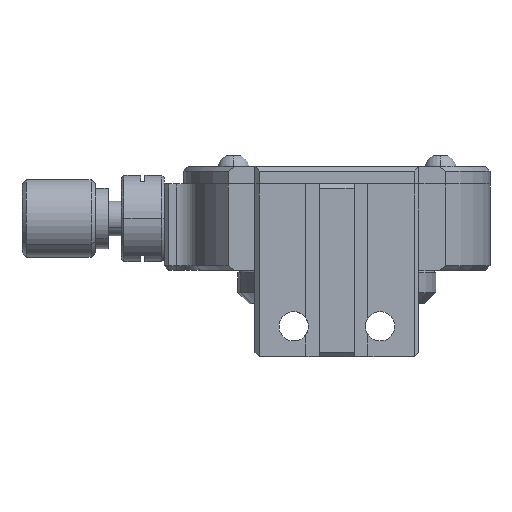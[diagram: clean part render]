
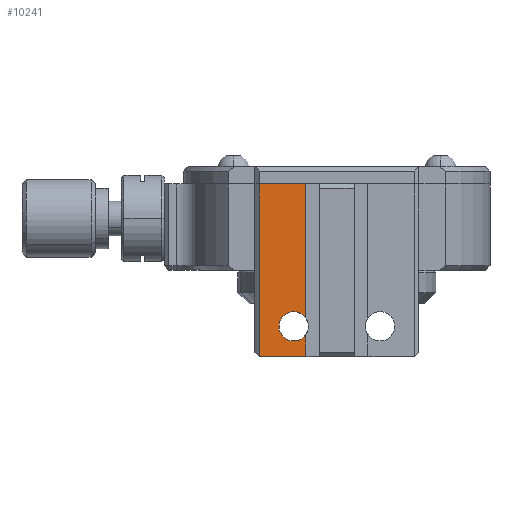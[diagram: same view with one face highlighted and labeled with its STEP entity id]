
A CAD part, front view. The second image highlights one B-rep face of the part: STEP entity #10241.
In plain terms, the highlighted planar face has unit normal (0, -1, 0).
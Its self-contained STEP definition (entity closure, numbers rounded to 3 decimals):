
#293 = LINE ( 'NONE', #14736, #6287 ) ;
#619 = VERTEX_POINT ( 'NONE', #1282 ) ;
#730 = EDGE_CURVE ( 'NONE', #619, #4335, #2613, .T. ) ;
#1066 = EDGE_LOOP ( 'NONE', ( #11743, #7103, #15033, #1620, #3644, #4826, #8092, #11633 ) ) ;
#1235 = VERTEX_POINT ( 'NONE', #9918 ) ;
#1282 = CARTESIAN_POINT ( 'NONE',  ( -3.6, -17.5, 0. ) ) ;
#1375 = EDGE_CURVE ( 'NONE', #4393, #7264, #5883, .T. ) ;
#1564 = EDGE_CURVE ( 'NONE', #14209, #619, #13424, .T. ) ;
#1620 = ORIENTED_EDGE ( 'NONE', *, *, #10924, .T. ) ;
#1626 = VECTOR ( 'NONE', #8209, 1000. ) ;
#2376 = EDGE_CURVE ( 'NONE', #4335, #1235, #293, .T. ) ;
#2578 = DIRECTION ( 'NONE',  ( 0., 0., -1. ) ) ;
#2613 = LINE ( 'NONE', #5171, #8181 ) ;
#2964 = DIRECTION ( 'NONE',  ( 0., 0., 1. ) ) ;
#3104 = EDGE_CURVE ( 'NONE', #4600, #1235, #9328, .T. ) ;
#3644 = ORIENTED_EDGE ( 'NONE', *, *, #11473, .T. ) ;
#4097 = DIRECTION ( 'NONE',  ( 0., 1., 0. ) ) ;
#4229 = CARTESIAN_POINT ( 'NONE',  ( -3.6, -17.5, -15.536 ) ) ;
#4335 = VERTEX_POINT ( 'NONE', #5292 ) ;
#4393 = VERTEX_POINT ( 'NONE', #11852 ) ;
#4600 = VERTEX_POINT ( 'NONE', #10083 ) ;
#4613 = VECTOR ( 'NONE', #11022, 1000. ) ;
#4826 = ORIENTED_EDGE ( 'NONE', *, *, #1375, .T. ) ;
#5171 = CARTESIAN_POINT ( 'NONE',  ( 0., -17.5, 0. ) ) ;
#5292 = CARTESIAN_POINT ( 'NONE',  ( -9., -17.5, 0. ) ) ;
#5306 = AXIS2_PLACEMENT_3D ( 'NONE', #7610, #8815, #7533 ) ;
#5538 = AXIS2_PLACEMENT_3D ( 'NONE', #7071, #10836, #14579 ) ;
#5883 = CIRCLE ( 'NONE', #13298, 1.7 ) ;
#6260 = CARTESIAN_POINT ( 'NONE',  ( -3.6, -17.5, -20. ) ) ;
#6287 = VECTOR ( 'NONE', #2578, 1000. ) ;
#7071 = CARTESIAN_POINT ( 'NONE',  ( 0., -17.5, -20. ) ) ;
#7103 = ORIENTED_EDGE ( 'NONE', *, *, #2376, .T. ) ;
#7264 = VERTEX_POINT ( 'NONE', #7997 ) ;
#7396 = DIRECTION ( 'NONE',  ( 0., 0., 1. ) ) ;
#7533 = DIRECTION ( 'NONE',  ( 0., 0., 1. ) ) ;
#7593 = VECTOR ( 'NONE', #7396, 1000. ) ;
#7610 = CARTESIAN_POINT ( 'NONE',  ( -5., -17.5, -16.5 ) ) ;
#7912 = EDGE_CURVE ( 'NONE', #7264, #14209, #15735, .T. ) ;
#7997 = CARTESIAN_POINT ( 'NONE',  ( -5., -17.5, -14.8 ) ) ;
#8092 = ORIENTED_EDGE ( 'NONE', *, *, #7912, .T. ) ;
#8181 = VECTOR ( 'NONE', #13496, 1000. ) ;
#8209 = DIRECTION ( 'NONE',  ( -1., 0., 0. ) ) ;
#8815 = DIRECTION ( 'NONE',  ( 0., 1., 0. ) ) ;
#8847 = AXIS2_PLACEMENT_3D ( 'NONE', #12490, #4097, #11278 ) ;
#9055 = CARTESIAN_POINT ( 'NONE',  ( -5., -17.5, -16.5 ) ) ;
#9328 = LINE ( 'NONE', #10374, #1626 ) ;
#9918 = CARTESIAN_POINT ( 'NONE',  ( -9., -17.5, -20. ) ) ;
#10083 = CARTESIAN_POINT ( 'NONE',  ( -3.6, -17.5, -20. ) ) ;
#10241 = ADVANCED_FACE ( 'NONE', ( #13068 ), #12183, .F. ) ;
#10316 = VERTEX_POINT ( 'NONE', #14507 ) ;
#10374 = CARTESIAN_POINT ( 'NONE',  ( 0., -17.5, -20. ) ) ;
#10679 = CIRCLE ( 'NONE', #5306, 1.7 ) ;
#10836 = DIRECTION ( 'NONE',  ( 0., 1., 0. ) ) ;
#10924 = EDGE_CURVE ( 'NONE', #4600, #10316, #13319, .T. ) ;
#10952 = CARTESIAN_POINT ( 'NONE',  ( -3.6, -17.5, -20. ) ) ;
#11022 = DIRECTION ( 'NONE',  ( 0., 0., 1. ) ) ;
#11278 = DIRECTION ( 'NONE',  ( 0., 0., 1. ) ) ;
#11473 = EDGE_CURVE ( 'NONE', #10316, #4393, #10679, .T. ) ;
#11633 = ORIENTED_EDGE ( 'NONE', *, *, #1564, .T. ) ;
#11743 = ORIENTED_EDGE ( 'NONE', *, *, #730, .T. ) ;
#11852 = CARTESIAN_POINT ( 'NONE',  ( -5., -17.5, -18.2 ) ) ;
#12183 = PLANE ( 'NONE',  #5538 ) ;
#12490 = CARTESIAN_POINT ( 'NONE',  ( -5., -17.5, -16.5 ) ) ;
#13068 = FACE_OUTER_BOUND ( 'NONE', #1066, .T. ) ;
#13298 = AXIS2_PLACEMENT_3D ( 'NONE', #9055, #13926, #2964 ) ;
#13319 = LINE ( 'NONE', #6260, #7593 ) ;
#13424 = LINE ( 'NONE', #10952, #4613 ) ;
#13496 = DIRECTION ( 'NONE',  ( -1., 0., 0. ) ) ;
#13926 = DIRECTION ( 'NONE',  ( 0., 1., 0. ) ) ;
#14209 = VERTEX_POINT ( 'NONE', #4229 ) ;
#14507 = CARTESIAN_POINT ( 'NONE',  ( -3.6, -17.5, -17.464 ) ) ;
#14579 = DIRECTION ( 'NONE',  ( 0., 0., 1. ) ) ;
#14736 = CARTESIAN_POINT ( 'NONE',  ( -9., -17.5, -20. ) ) ;
#15033 = ORIENTED_EDGE ( 'NONE', *, *, #3104, .F. ) ;
#15735 = CIRCLE ( 'NONE', #8847, 1.7 ) ;
